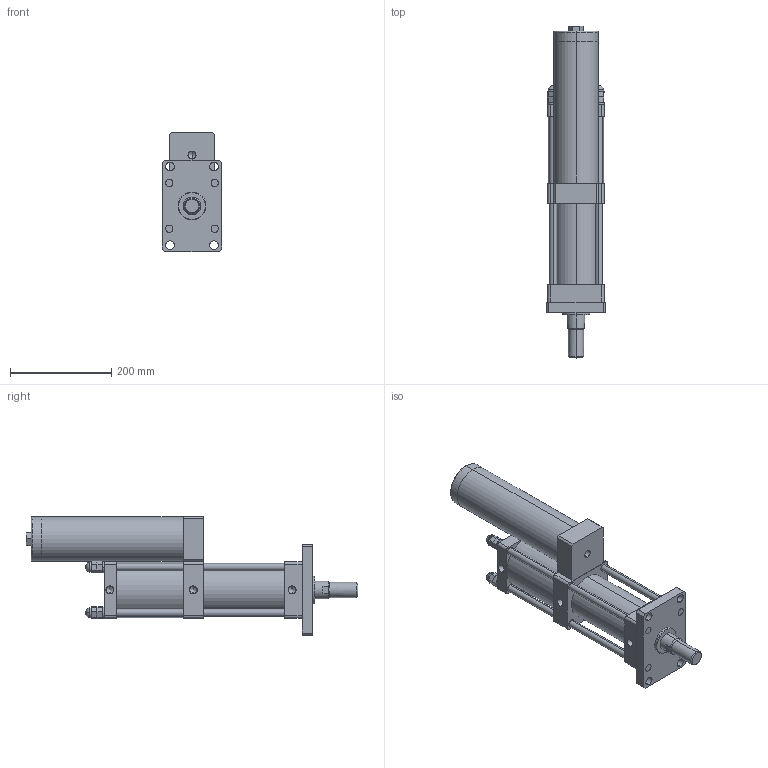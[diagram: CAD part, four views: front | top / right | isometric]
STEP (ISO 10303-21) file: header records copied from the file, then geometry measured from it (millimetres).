
FILE_DESCRIPTION (( 'STEP AP203' ), '1' );
FILE_NAME ('MPT-80-100-5-8T.STEP', '2016-03-11T03:27:02', ( 'WIN' ), ( '' ), 'SwSTEP 2.0', 'SolidWorks 2014', '' );
FILE_SCHEMA (( 'CONFIG_CONTROL_DESIGN' ));
Length unit declared in the file: millimetre
Products named in the file (1): MPT-80-100-5-8T
Bounding box: 118 x 655 x 235 mm (x, y, z)
Volume: 4859301.7 mm3; surface area: 627435.7 mm2
Topology: 20 solids, 20 shells, 400 faces, 968 edges, 562 vertices
Faces by surface type: plane 187, cylinder 90, torus 48, bspline 48, cone 27
Entity records: 12732 total; most frequent: CARTESIAN_POINT 3707, DIRECTION 1901, ORIENTED_EDGE 1804, EDGE_CURVE 902, AXIS2_PLACEMENT_3D 700, VERTEX_POINT 562, VECTOR 501, LINE 501
